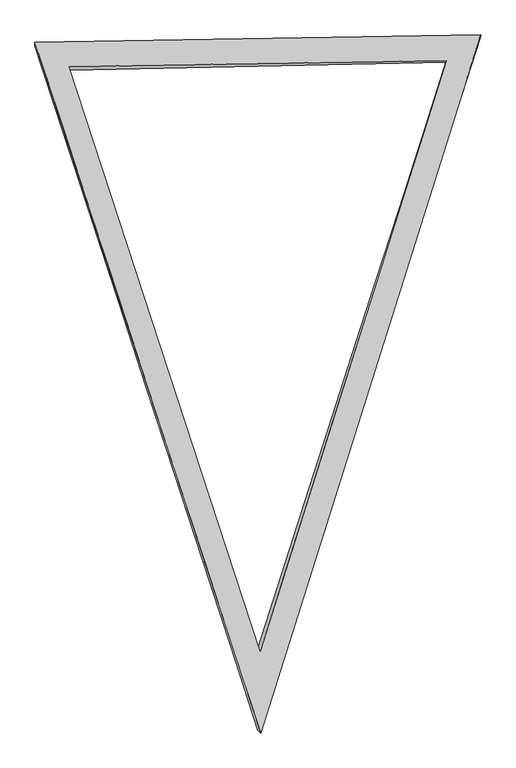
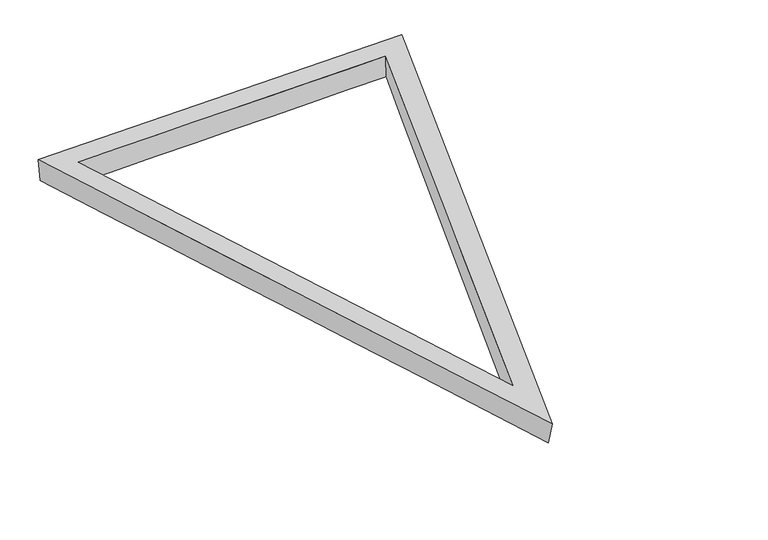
"""IFC4 building model written with IfcOpenShell, lengths in millimetres: plate geometry."""

from ifc_helpers import new_model, si_unit, frame, origin, place, context, project, spatial, source, transform, mapped, element, save
from ifc_brep_helpers import plane_surface, spline_surface, advanced_brep


def plate_4dbbd2cc(model_context):
    return source(origin(), model_context, "Body", "AdvancedBrep", [
        advanced_brep(
        [(4567.7803306, 6705.0810723, 0.0), (4567.7950039, 6735.0179171, 200.8675202), (6114.4332566, 1998.1225272, 200.6735864), (6094.6575071, 2017.9005597, 0.0), (7623.4088196, 6783.629305, 202.6692445), (7621.5346836, 6770.6305277, 0.0), (6096.0, 1357.7371516, 0.0), (7902.1945184, 6979.9017552, 0.0), (7901.950147, 6991.2862926, 202.8806856), (6117.805613, 1333.1192754, 200.5211097), (4289.8054816, 6902.3610932, 0.0), (4289.1304162, 6933.8103836, 200.7504083)],
        [
            (0, 1),
            (1, 2),
            (2, 3),
            (3, 0),
            (2, 4),
            (4, 5),
            (5, 3),
            (0, 5),
            (4, 1),
            (6, 7),
            (7, 8),
            (8, 9),
            (9, 6),
            (7, 10),
            (10, 11),
            (11, 8),
            (9, 11),
            (10, 6),
        ],
        [
            spline_surface(1, 1, [[(4567.7803306, 6705.0810723, 0.0), (6094.6575071, 2017.9005597, 0.0)], [(4567.7950039, 6735.0179171, 200.8675202), (6114.4332566, 1998.1225272, 200.6735864)]], [2, 2], [2, 2], [0.0, 1.0], [0.0, 1.0]),
            spline_surface(1, 1, [[(6094.6575071, 2017.9005597, 0.0), (7621.5346836, 6770.6305277, 0.0)], [(6114.4332566, 1998.1225272, 200.6735864), (7623.4088196, 6783.629305, 202.6692445)]], [2, 2], [2, 2], [0.0, 1.0], [0.0, 1.0]),
            spline_surface(1, 1, [[(7621.5346836, 6770.6305277, 0.0), (4567.7803306, 6705.0810723, 0.0)], [(7623.4088196, 6783.629305, 202.6692445), (4567.7950039, 6735.0179171, 200.8675202)]], [2, 2], [2, 2], [0.0, 1.0], [0.0, 1.0]),
            spline_surface(1, 1, [[(6096.0, 1357.7371516, 0.0), (6117.805613, 1333.1192754, 200.5211097)], [(7902.1945184, 6979.9017552, 0.0), (7901.950147, 6991.2862926, 202.8806856)]], [2, 2], [2, 2], [0.0, 1.0], [0.0, 1.0]),
            spline_surface(1, 1, [[(7902.1945184, 6979.9017552, 0.0), (7901.950147, 6991.2862926, 202.8806856)], [(4289.8054816, 6902.3610932, 0.0), (4289.1304162, 6933.8103836, 200.7504083)]], [2, 2], [2, 2], [0.0, 1.0], [0.0, 1.0]),
            spline_surface(1, 1, [[(4289.8054816, 6902.3610932, 0.0), (4289.1304162, 6933.8103836, 200.7504083)], [(6096.0, 1357.7371516, 0.0), (6117.805613, 1333.1192754, 200.5211097)]], [2, 2], [2, 2], [0.0, 1.0], [0.0, 1.0]),
            plane_surface(frame((6102.9620587, 5086.0719839, 201.3840678), z_axis=(-0.0005859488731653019, -0.00023225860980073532, 0.9999998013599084), x_axis=(0.3103830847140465, -0.9506115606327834, -3.8919108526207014e-05))),
            plane_surface(frame((6096.0, 5080.0, 0.0), z_axis=(0.0, 0.0, -1.0000000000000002), x_axis=(-0.3097361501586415, 0.9508225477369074, 0.0))),
        ],
        [
            (0, [[1, 2, 3, 4]]),
            (1, [[-3, 5, 6, 7]]),
            (2, [[-1, 8, -6, 9]]),
            (3, [[10, 11, 12, 13]]),
            (4, [[-11, 14, 15, 16]]),
            (5, [[-13, 17, -15, 18]]),
            (6, [[-12, -16, -17], [-2, -9, -5]]),
            (7, [[-10, -18, -14], [-4, -7, -8]]),
        ],
    ),
    ])


if __name__ == "__main__":
    model = new_model("IFC4")
    model_context = context("Model", 3, world=origin())
    ifc_project = project(units=[si_unit("LENGTHUNIT", "METRE", prefix="MILLI")], contexts=[model_context])
    site = spatial("IfcSite", under=ifc_project)
    building = spatial("IfcBuilding", under=site)
    placement = place(None, origin())
    plate_shape = plate_4dbbd2cc(model_context)
    element("IfcPlate", 1, ObjectType="tn_cpanel_patbase_triangle_flat_seamless_frame_02_cylinder : tn_triangle_seamless_frame_t8\"xh8\"", at=placement, inside=building, context=model_context, shape_type="MappedRepresentation", body=[
        mapped(plate_shape, transform((0.0, 0.0, 0.0), x_axis=(1.0, 0.0, 0.0), y_axis=(0.0, 1.0, 0.0), z_axis=(0.0, 0.0, 1.0))),
    ])
    save(model, "model.ifc")
